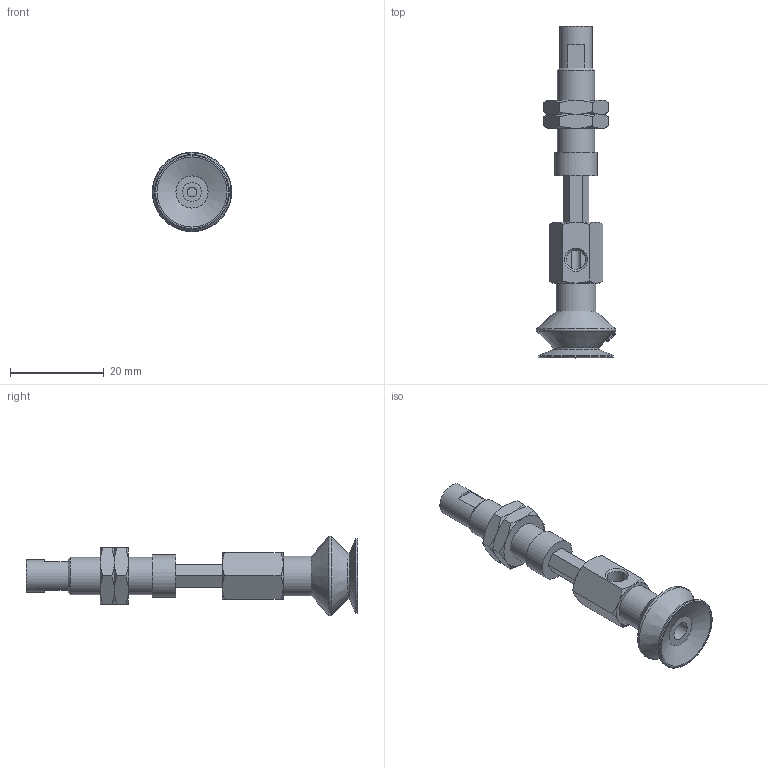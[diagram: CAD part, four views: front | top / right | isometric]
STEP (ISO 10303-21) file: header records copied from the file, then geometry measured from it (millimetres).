
FILE_DESCRIPTION(('STEP AP203'),'1');
FILE_NAME('.stp','2025-04-02T01:27:18',(' '),(' '),'Spatial InterOp 3D',' ',' ');
FILE_SCHEMA(('CONFIG_CONTROL_DESIGN'));
Length unit declared in the file: millimetre
Products named in the file (8): BNABPBYH-15A-10-※; CONNECTOR-15A-10-PB; Nut-15A-S-PB; NAPBTH-15A-10-FBODY; NAPBTH-15A-10-MBODY; BPBG-15A-※; __27; BPBG-15A
Assembly tree (8 placements, depth 3):
  BNABPBYH-15A-10-※
    CONNECTOR-15A-10-PB
    Nut-15A-S-PB  x2
    NAPBTH-15A-10-FBODY
    NAPBTH-15A-10-MBODY
    BPBG-15A-※
      __27
      BPBG-15A
Bounding box: 17 x 71 x 17 mm (x, y, z)
Volume: 4593 mm3; surface area: 5007.9 mm2
Topology: 7 solids, 7 shells, 154 faces, 338 edges, 208 vertices
Faces by surface type: plane 64, cone 55, cylinder 16, torus 11, bspline 8
Full cylindrical faces by diameter (mm): 2 x1, 4 x3, 4.134 x2, 5 x1, 6 x2, 7 x1, 7.188 x2, 8 x1, 8.5 x1, 9 x1, 16 x1
Entity records: 5061 total; most frequent: CARTESIAN_POINT 2077, DIRECTION 519, ORIENTED_EDGE 478, EDGE_CURVE 239, AXIS2_PLACEMENT_3D 218, EDGE_LOOP 189, VERTEX_POINT 168, FACE_OUTER_BOUND 157
